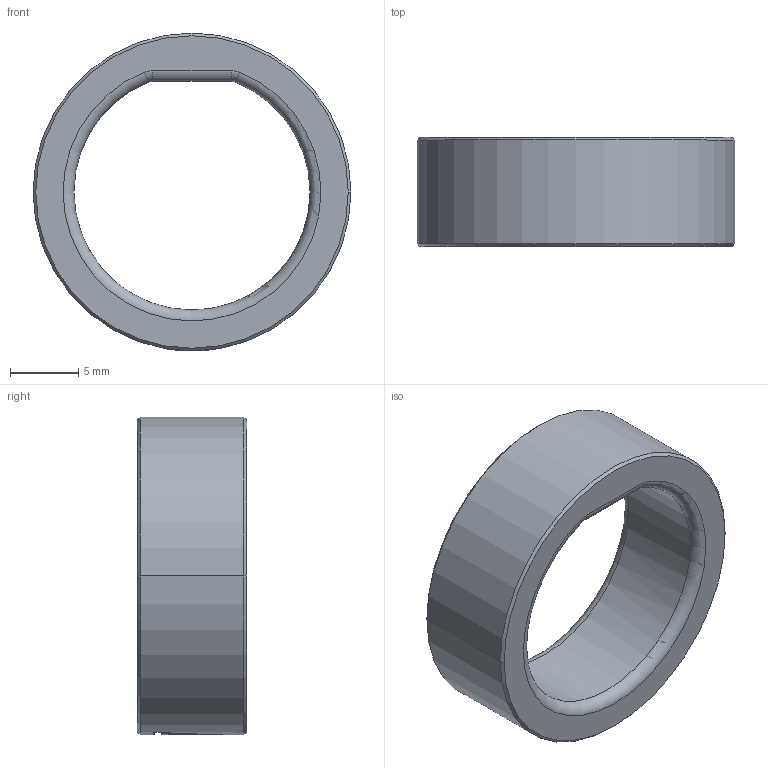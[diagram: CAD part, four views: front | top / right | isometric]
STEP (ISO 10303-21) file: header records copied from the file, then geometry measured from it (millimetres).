
FILE_DESCRIPTION((''),'2;1');
FILE_NAME('7','2026-09-02T09:49:57',('krisl'),(''),'CREO PARAMETRIC BY PTC INC, 2024063','CREO PARAMETRIC BY PTC INC, 2024063','');
FILE_SCHEMA(('CONFIG_CONTROL_DESIGN'));
Length unit declared in the file: millimetre
Products named in the file (1): 7
Bounding box: 23.3 x 8 x 23.3 mm (x, y, z)
Volume: 1529.3 mm3; surface area: 1355.8 mm2
Topology: 1 solids, 1 shells, 28 faces, 75 edges, 50 vertices
Faces by surface type: cylinder 8, bspline 7, torus 6, cone 4, plane 3
Entity records: 1038 total; most frequent: CARTESIAN_POINT 287, DIRECTION 152, ORIENTED_EDGE 150, EDGE_CURVE 75, AXIS2_PLACEMENT_3D 67, VERTEX_POINT 50, CIRCLE 46, EDGE_LOOP 31
